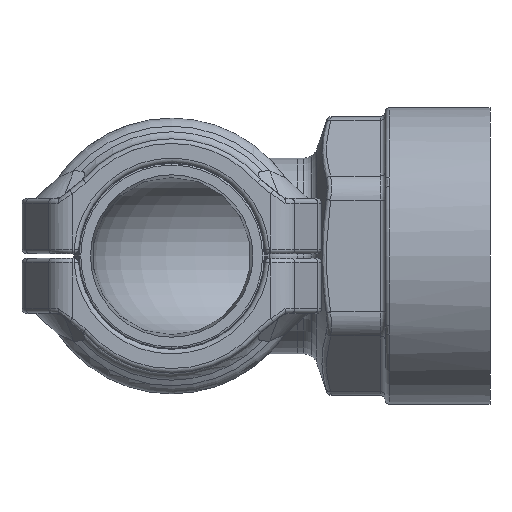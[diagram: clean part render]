
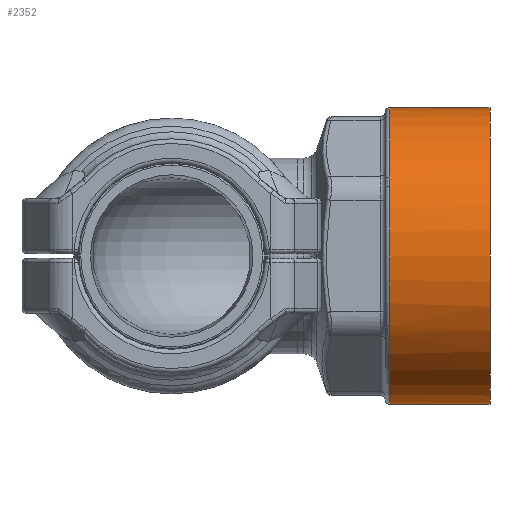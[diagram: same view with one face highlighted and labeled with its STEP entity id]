
A CAD part, front view. The second image highlights one B-rep face of the part: STEP entity #2352.
In plain terms, the highlighted cylindrical face has radius 32.239 mm (diameter 64.478 mm), a partial arc.
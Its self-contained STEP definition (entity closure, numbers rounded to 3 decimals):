
#271=CARTESIAN_POINT('',(69.112,0.,0.));
#272=DIRECTION('',(1.,0.,0.));
#273=DIRECTION('',(0.,0.,1.));
#274=AXIS2_PLACEMENT_3D('',#271,#272,#273);
#303=DIRECTION('',(-1.,0.,0.));
#304=VECTOR('',#303,21.761);
#305=CARTESIAN_POINT('',(69.112,0.,32.239));
#306=LINE('',#305,#304);
#310=DIRECTION('',(-1.,0.,0.));
#311=VECTOR('',#310,21.761);
#312=CARTESIAN_POINT('',(69.112,0.,-32.239));
#313=LINE('',#312,#311);
#341=CARTESIAN_POINT('',(47.351,0.,0.));
#342=DIRECTION('',(-1.,0.,0.));
#343=DIRECTION('',(0.,-0.038,0.999));
#344=AXIS2_PLACEMENT_3D('',#341,#342,#343);
#349=CARTESIAN_POINT('',(47.351,0.,0.));
#350=DIRECTION('',(-1.,0.,0.));
#351=DIRECTION('',(0.,-0.847,0.532));
#352=AXIS2_PLACEMENT_3D('',#349,#350,#351);
#373=CARTESIAN_POINT('',(47.351,0.,0.));
#374=DIRECTION('',(-1.,0.,0.));
#375=DIRECTION('',(0.,-0.884,0.467));
#376=AXIS2_PLACEMENT_3D('',#373,#374,#375);
#381=CARTESIAN_POINT('',(47.351,0.,0.));
#382=DIRECTION('',(-1.,0.,0.));
#383=DIRECTION('',(0.,-0.884,-0.467));
#384=AXIS2_PLACEMENT_3D('',#381,#382,#383);
#397=CARTESIAN_POINT('',(47.351,0.,0.));
#398=DIRECTION('',(-1.,0.,0.));
#399=DIRECTION('',(0.,-0.847,-0.532));
#400=AXIS2_PLACEMENT_3D('',#397,#398,#399);
#413=CARTESIAN_POINT('',(47.351,0.,0.));
#414=DIRECTION('',(-1.,0.,0.));
#415=DIRECTION('',(0.,-0.038,-0.999));
#416=AXIS2_PLACEMENT_3D('',#413,#414,#415);
#429=CARTESIAN_POINT('',(47.351,0.,0.));
#430=DIRECTION('',(-1.,0.,0.));
#431=DIRECTION('',(0.,0.,-1.));
#432=AXIS2_PLACEMENT_3D('',#429,#430,#431);
#1969=CARTESIAN_POINT('',(47.351,-28.505,-15.06));
#1970=VERTEX_POINT('',#1969);
#1971=CARTESIAN_POINT('',(47.351,-27.295,-17.156));
#1972=VERTEX_POINT('',#1971);
#1973=CARTESIAN_POINT('',(47.351,-1.21,-32.216));
#1974=VERTEX_POINT('',#1973);
#1975=CARTESIAN_POINT('',(47.351,-28.505,15.06));
#1976=VERTEX_POINT('',#1975);
#1979=CARTESIAN_POINT('',(47.351,-27.295,17.156));
#1980=VERTEX_POINT('',#1979);
#1983=CARTESIAN_POINT('',(47.351,-1.21,32.216));
#1984=VERTEX_POINT('',#1983);
#2073=CARTESIAN_POINT('',(69.112,0.,-32.239));
#2074=CARTESIAN_POINT('',(47.351,0.,-32.239));
#2075=VERTEX_POINT('',#2073);
#2076=VERTEX_POINT('',#2074);
#2077=CARTESIAN_POINT('',(69.112,0.,32.239));
#2078=CARTESIAN_POINT('',(47.351,0.,32.239));
#2079=VERTEX_POINT('',#2077);
#2080=VERTEX_POINT('',#2078);
#2326=CARTESIAN_POINT('',(73.209,0.,0.));
#2327=DIRECTION('',(-1.,0.,0.));
#2328=DIRECTION('',(0.,0.,1.));
#2329=AXIS2_PLACEMENT_3D('',#2326,#2327,#2328);
#2330=CYLINDRICAL_SURFACE('',#2329,32.239);
#2332=ORIENTED_EDGE('',*,*,#2331,.T.);
#2334=ORIENTED_EDGE('',*,*,#2333,.F.);
#2335=ORIENTED_EDGE('',*,*,#2314,.T.);
#2337=ORIENTED_EDGE('',*,*,#2336,.T.);
#2339=ORIENTED_EDGE('',*,*,#2338,.T.);
#2341=ORIENTED_EDGE('',*,*,#2340,.T.);
#2343=ORIENTED_EDGE('',*,*,#2342,.T.);
#2345=ORIENTED_EDGE('',*,*,#2344,.T.);
#2347=ORIENTED_EDGE('',*,*,#2346,.T.);
#2349=ORIENTED_EDGE('',*,*,#2348,.T.);
#2350=EDGE_LOOP('',(#2332,#2334,#2335,#2337,#2339,#2341,#2343,#2345,#2347,
#2349));
#2351=FACE_OUTER_BOUND('',#2350,.F.);
#275=CIRCLE('',#274,32.239);
#345=CIRCLE('',#344,32.239);
#353=CIRCLE('',#352,32.239);
#377=CIRCLE('',#376,32.239);
#385=CIRCLE('',#384,32.239);
#401=CIRCLE('',#400,32.239);
#417=CIRCLE('',#416,32.239);
#433=CIRCLE('',#432,32.239);
#2314=EDGE_CURVE('',#2079,#2075,#275,.T.);
#2331=EDGE_CURVE('',#1984,#2080,#345,.T.);
#2333=EDGE_CURVE('',#2079,#2080,#306,.T.);
#2336=EDGE_CURVE('',#2075,#2076,#313,.T.);
#2338=EDGE_CURVE('',#2076,#1974,#433,.T.);
#2340=EDGE_CURVE('',#1974,#1972,#417,.T.);
#2342=EDGE_CURVE('',#1972,#1970,#401,.T.);
#2344=EDGE_CURVE('',#1970,#1976,#385,.T.);
#2346=EDGE_CURVE('',#1976,#1980,#377,.T.);
#2348=EDGE_CURVE('',#1980,#1984,#353,.T.);
#2352=ADVANCED_FACE('',(#2351),#2330,.T.);
